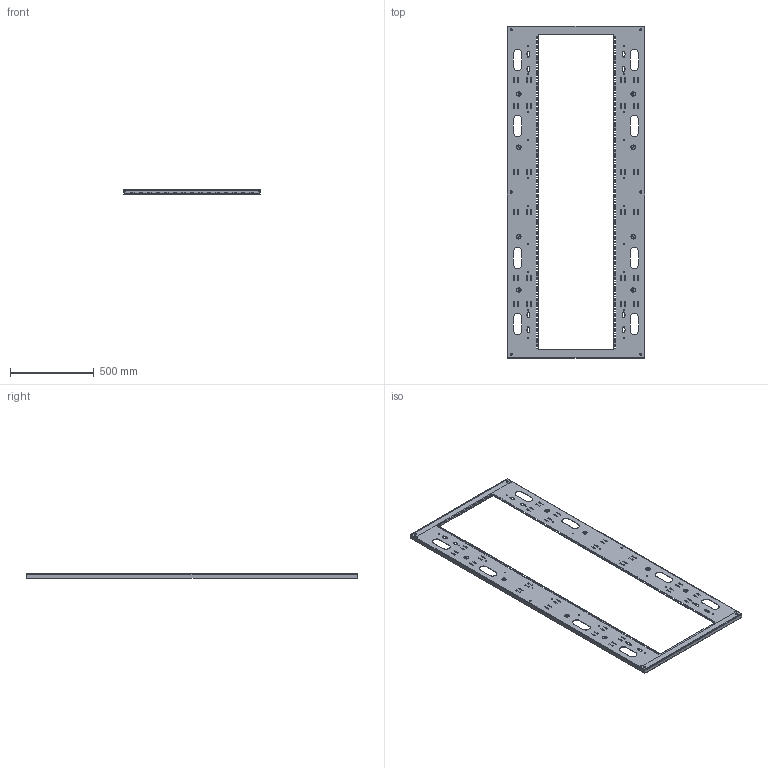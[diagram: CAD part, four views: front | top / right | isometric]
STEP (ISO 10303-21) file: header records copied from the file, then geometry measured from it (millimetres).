
FILE_DESCRIPTION (( 'STEP AP203' ), '1' );
FILE_NAME ('A90P36RP.STEP', '2017-10-02T13:39:04', ( '' ), ( '' ), 'SwSTEP 2.0', 'SolidWorks 2014', '' );
FILE_SCHEMA (( 'CONFIG_CONTROL_DESIGN' ));
Length unit declared in the file: inch
Products named in the file (4): A90P36RP; 89152571_571TR002; 89152569; 89152570
Assembly tree (4 placements, depth 3):
  A90P36RP
    89152570
      89152571_571TR002
      89152569  x2
Bounding box: 822.96 x 1981.2 x 26.44 mm (x, y, z)
Volume: 2323088.6 mm3; surface area: 1935899.8 mm2
Topology: 3 solids, 3 shells, 2038 faces, 6020 edges, 3992 vertices
Faces by surface type: plane 1762, cylinder 268, bspline 8
Entity records: 62890 total; most frequent: CARTESIAN_POINT 11368, ORIENTED_EDGE 10800, DIRECTION 9544, EDGE_CURVE 5400, VECTOR 4872, LINE 4872, VERTEX_POINT 3584, EDGE_LOOP 2750
